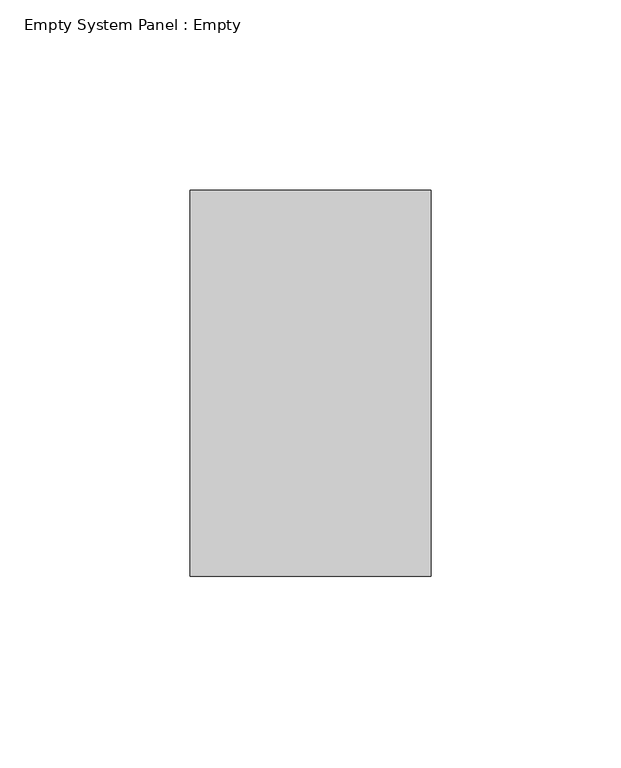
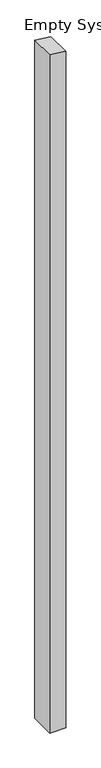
"""IFC4 building model written with IfcOpenShell, lengths in millimetres: plate geometry, Empty System Panel : Empty."""

from ifc_helpers import new_model, si_unit, frame, origin, place, context, project, spatial, polyline, outline, extrude, source, transform, mapped, element, save


def empty_system_panel_empty_5358ba8f(model_context):
    return source(origin(), model_context, "Body", "SweptSolid", [
        extrude(outline(polyline([(0.0, -31.75), (0.0, 31.75), (2845.0511325, 31.75), (2852.1534915, -31.75), (0.0, -31.75)])), frame((0.0, -50.8, 0.0), z_axis=(0.0, 1.0, 0.0), x_axis=(0.0, 0.0, 1.0)), (0.0, 0.0, 1.0), 101.6),
    ])


if __name__ == "__main__":
    model = new_model("IFC4")
    model_context = context("Model", 3, world=origin())
    ifc_project = project(units=[si_unit("LENGTHUNIT", "METRE", prefix="MILLI")], contexts=[model_context])
    site = spatial("IfcSite", under=ifc_project)
    building = spatial("IfcBuilding", under=site)
    placement = place(None, origin())
    empty_system_panel_empty_shape = empty_system_panel_empty_5358ba8f(model_context)
    element("IfcPlate", 1, ObjectType="Empty System Panel : Empty", at=placement, inside=building, context=model_context, shape_type="MappedRepresentation", body=[
        mapped(empty_system_panel_empty_shape, transform((0.0, 0.0, 0.0), x_axis=(1.0, 0.0, 0.0), y_axis=(0.0, 1.0, 0.0), z_axis=(0.0, 0.0, 1.0))),
    ])
    save(model, "model.ifc")
